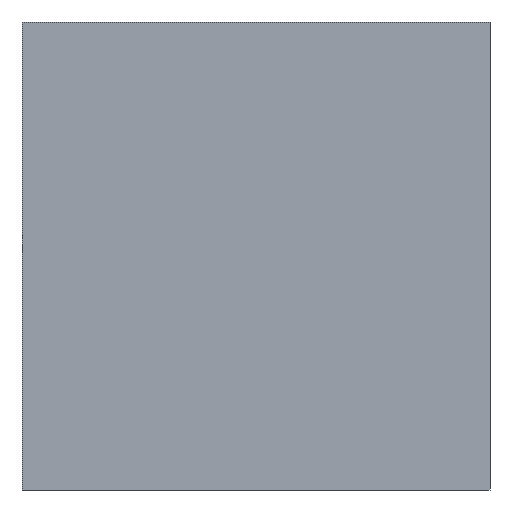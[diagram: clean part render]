
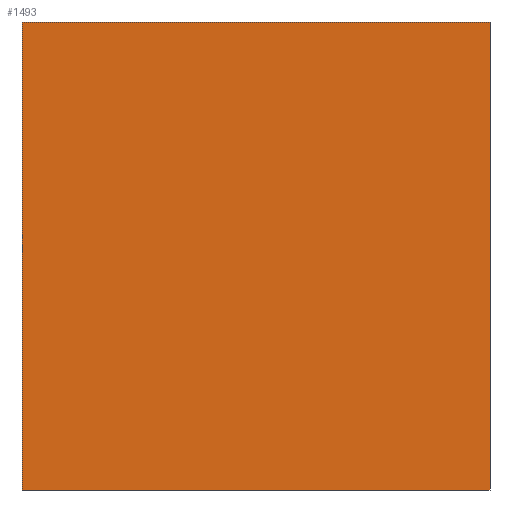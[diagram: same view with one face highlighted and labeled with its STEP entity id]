
A CAD part, left-side view. The second image highlights one B-rep face of the part: STEP entity #1493.
In plain terms, the highlighted planar face has unit normal (-1, 0, 0).
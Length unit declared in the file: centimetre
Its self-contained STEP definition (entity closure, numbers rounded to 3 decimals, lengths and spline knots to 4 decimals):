
#35 = DIRECTION ( 'NONE',  ( 0., 0., -1. ) ) ;
#298 = CARTESIAN_POINT ( 'NONE',  ( 0., 0., 1000. ) ) ;
#358 = AXIS2_PLACEMENT_3D ( 'NONE', #417, #1595, #35 ) ;
#379 = LINE ( 'NONE', #1650, #698 ) ;
#417 = CARTESIAN_POINT ( 'NONE',  ( 0., 1000., 1000. ) ) ;
#487 = VECTOR ( 'NONE', #559, 100. ) ;
#521 = VERTEX_POINT ( 'NONE', #577 ) ;
#536 = ORIENTED_EDGE ( 'NONE', *, *, #1123, .T. ) ;
#559 = DIRECTION ( 'NONE',  ( 0., -1., 0. ) ) ;
#577 = CARTESIAN_POINT ( 'NONE',  ( 0., 1000., 1000. ) ) ;
#578 = EDGE_CURVE ( 'NONE', #1545, #1189, #1490, .T. ) ;
#623 = CARTESIAN_POINT ( 'NONE',  ( 0., 0., 0. ) ) ;
#682 = LINE ( 'NONE', #1206, #487 ) ;
#698 = VECTOR ( 'NONE', #1416, 100. ) ;
#835 = EDGE_CURVE ( 'NONE', #521, #1545, #682, .T. ) ;
#948 = EDGE_LOOP ( 'NONE', ( #1582, #1495, #1477, #536 ) ) ;
#970 = EDGE_CURVE ( 'NONE', #972, #1189, #1654, .T. ) ;
#972 = VERTEX_POINT ( 'NONE', #1638 ) ;
#985 = CARTESIAN_POINT ( 'NONE',  ( 0., 0., 1000. ) ) ;
#989 = CARTESIAN_POINT ( 'NONE',  ( 0., 1000., 0. ) ) ;
#1115 = DIRECTION ( 'NONE',  ( 0., -1., 0. ) ) ;
#1123 = EDGE_CURVE ( 'NONE', #521, #972, #379, .T. ) ;
#1189 = VERTEX_POINT ( 'NONE', #623 ) ;
#1193 = VECTOR ( 'NONE', #1115, 100. ) ;
#1206 = CARTESIAN_POINT ( 'NONE',  ( 0., 1000., 1000. ) ) ;
#1414 = PLANE ( 'NONE',  #358 ) ;
#1416 = DIRECTION ( 'NONE',  ( 0., 0., -1. ) ) ;
#1477 = ORIENTED_EDGE ( 'NONE', *, *, #835, .F. ) ;
#1481 = DIRECTION ( 'NONE',  ( 0., 0., -1. ) ) ;
#1490 = LINE ( 'NONE', #985, #1561 ) ;
#1493 = ADVANCED_FACE ( 'NONE', ( #1578 ), #1414, .F. ) ;
#1495 = ORIENTED_EDGE ( 'NONE', *, *, #578, .F. ) ;
#1545 = VERTEX_POINT ( 'NONE', #298 ) ;
#1561 = VECTOR ( 'NONE', #1481, 100. ) ;
#1578 = FACE_OUTER_BOUND ( 'NONE', #948, .T. ) ;
#1582 = ORIENTED_EDGE ( 'NONE', *, *, #970, .T. ) ;
#1595 = DIRECTION ( 'NONE',  ( 1., 0., 0. ) ) ;
#1638 = CARTESIAN_POINT ( 'NONE',  ( 0., 1000., 0. ) ) ;
#1650 = CARTESIAN_POINT ( 'NONE',  ( 0., 1000., 1000. ) ) ;
#1654 = LINE ( 'NONE', #989, #1193 ) ;
